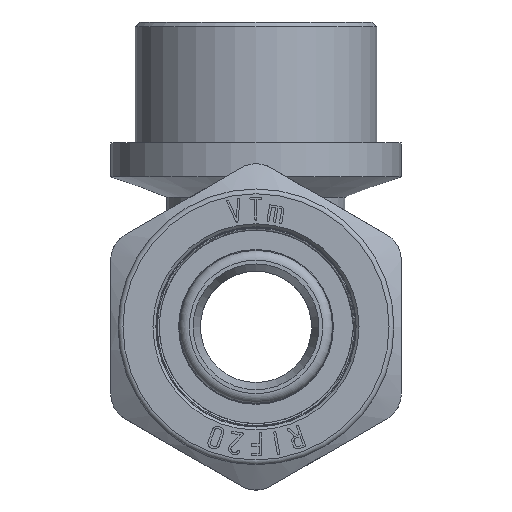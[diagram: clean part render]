
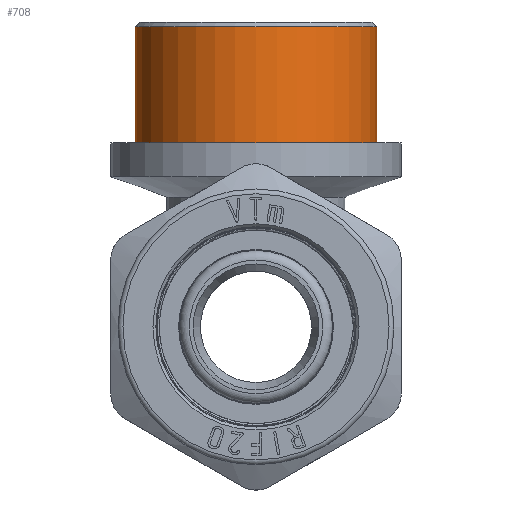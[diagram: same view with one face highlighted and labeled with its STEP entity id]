
A CAD part, front view. The second image highlights one B-rep face of the part: STEP entity #708.
In plain terms, the highlighted cylindrical face has radius 12.5 mm (diameter 25 mm), a full revolution.
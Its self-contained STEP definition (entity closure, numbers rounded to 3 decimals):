
#708=ADVANCED_FACE('',(#5431,#5433),#5435,.T.);
#5431=FACE_OUTER_BOUND('',#5432,.T.);
#5432=EDGE_LOOP('',(#10519));
#5433=FACE_OUTER_BOUND('',#5434,.T.);
#5434=EDGE_LOOP('',(#10520));
#5435=CYLINDRICAL_SURFACE('',#5436,12.5);
#5436=AXIS2_PLACEMENT_3D('',#5437,#5438,#5439);
#5437=CARTESIAN_POINT('',(0.,0.,19.));
#5438=DIRECTION('',(0.,0.,1.));
#5439=DIRECTION('',(-1.,0.,0.));
#10519=ORIENTED_EDGE('',*,*,#12857,.F.);
#10520=ORIENTED_EDGE('',*,*,#12573,.F.);
#12573=EDGE_CURVE('',#15648,#15648,#15649,.F.);
#12857=EDGE_CURVE('',#16096,#16096,#16097,.T.);
#15648=VERTEX_POINT('',#25836);
#15649=CIRCLE('',#25837,12.5);
#16096=VERTEX_POINT('',#26858);
#16097=CIRCLE('',#26859,12.5);
#25836=CARTESIAN_POINT('',(-12.5,0.,19.));
#25837=AXIS2_PLACEMENT_3D('',#25838,#25839,#25840);
#25838=CARTESIAN_POINT('',(0.,0.,19.));
#25839=DIRECTION('',(0.,0.,1.));
#25840=DIRECTION('',(-1.,0.,0.));
#26858=CARTESIAN_POINT('',(-12.5,0.,31.));
#26859=AXIS2_PLACEMENT_3D('',#26860,#26861,#26862);
#26860=CARTESIAN_POINT('',(0.,0.,31.));
#26861=DIRECTION('',(0.,0.,1.));
#26862=DIRECTION('',(-1.,0.,0.));
